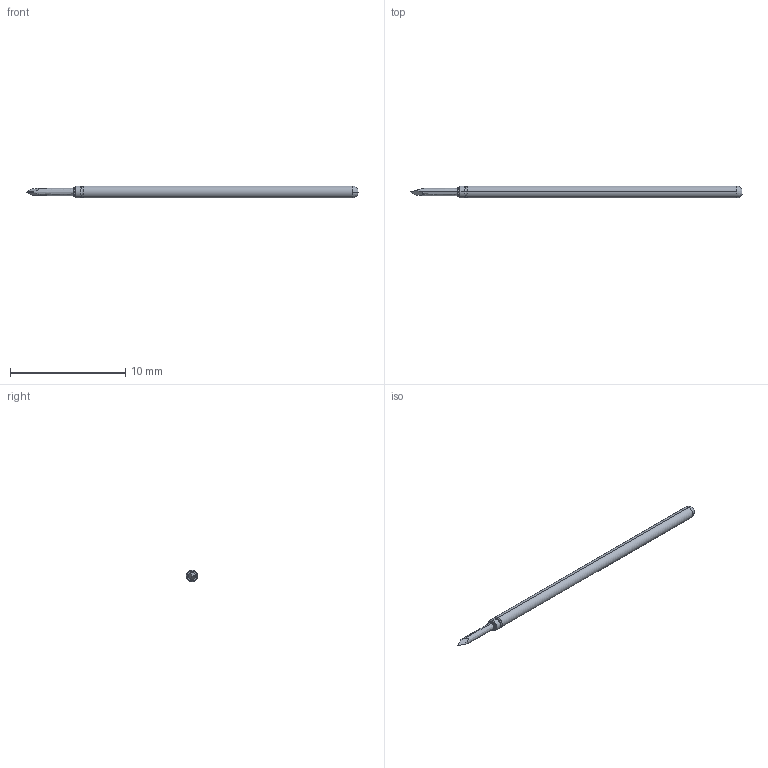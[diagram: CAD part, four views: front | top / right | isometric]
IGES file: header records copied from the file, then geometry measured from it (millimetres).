
Start section: SolidWorks IGES file using analytic representation for surfaces
Global section: file name: Z:\probe solid model mockups\Solidworks models\Parts\LFRE-1T24 RECD.IGS; native system: SolidWorks 2016; preprocessor: SolidWorks 2016; author: mlee; date: 180927.163952; units: inch
Bounding box: 28.78 x 1.02 x 1.02 mm (x, y, z)
Surface area: 86.5 mm2 (no closed solid volume)
Topology: 0 solids, 0 shells, 21 faces, 158 edges, 158 vertices
Faces by surface type: revolution 12, bspline 9
